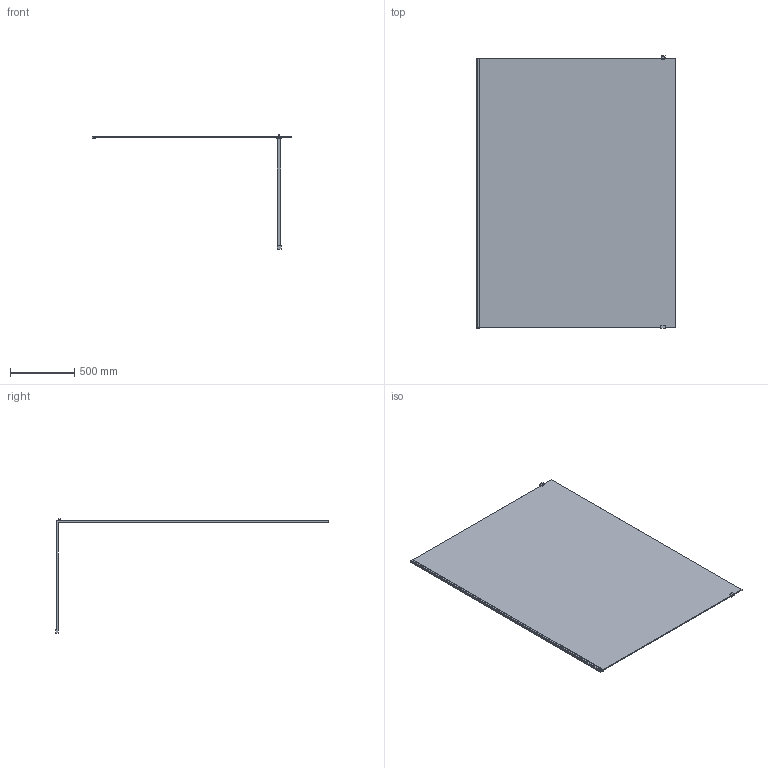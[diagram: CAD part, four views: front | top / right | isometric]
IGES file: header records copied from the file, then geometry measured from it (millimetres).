
Start section: SolidWorks IGES file using analytic representation for surfaces
Global section: file name: D:\Users\M.Szymanski\Desktop\Kabiny\PIII_ALTIIa\03. do przegrania\PIII_ALTIIa_160_K3D.IGS; native system: SolidWorks 2011; preprocessor: SolidWorks 2011; author: M.Szymanski; date: 181005.105044; units: millimetre
Bounding box: 1558.45 x 2128 x 894.4 mm (x, y, z)
Surface area: 6854624.1 mm2 (no closed solid volume)
Topology: 0 solids, 0 shells, 52 faces, 372 edges, 496 vertices
Faces by surface type: bspline 52
